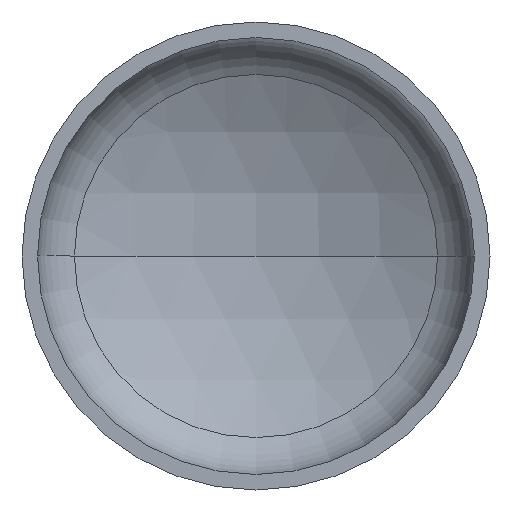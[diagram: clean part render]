
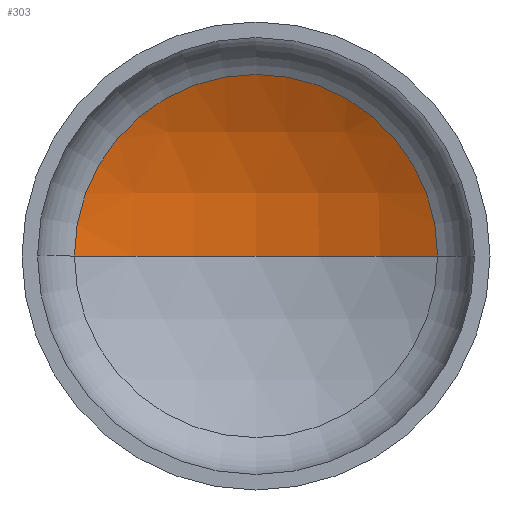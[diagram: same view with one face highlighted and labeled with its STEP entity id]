
A CAD part, front view. The second image highlights one B-rep face of the part: STEP entity #303.
In plain terms, the highlighted spherical face has radius 2560 mm.
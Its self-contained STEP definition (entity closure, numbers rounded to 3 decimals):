
#2 = AXIS2_PLACEMENT_3D ( 'NONE', #182, #376, #255 ) ;
#3 = AXIS2_PLACEMENT_3D ( 'NONE', #87, #109, #112 ) ;
#10 = AXIS2_PLACEMENT_3D ( 'NONE', #131, #308, #361 ) ;
#20 = AXIS2_PLACEMENT_3D ( 'NONE', #262, #139, #57 ) ;
#42 = VERTEX_POINT ( 'NONE', #270 ) ;
#55 = ORIENTED_EDGE ( 'NONE', *, *, #340, .F. ) ;
#57 = DIRECTION ( 'NONE',  ( -1., 0., 0. ) ) ;
#84 = CARTESIAN_POINT ( 'NONE',  ( -1241.662, 503.505, 0. ) ) ;
#87 = CARTESIAN_POINT ( 'NONE',  ( 0., -1735.217, 0. ) ) ;
#92 = CIRCLE ( 'NONE', #3, 2560. ) ;
#108 = CARTESIAN_POINT ( 'NONE',  ( 0., 824.783, 0. ) ) ;
#109 = DIRECTION ( 'NONE',  ( 0., 0., -1. ) ) ;
#111 = FACE_OUTER_BOUND ( 'NONE', #189, .T. ) ;
#112 = DIRECTION ( 'NONE',  ( -1., 0., 0. ) ) ;
#115 = ORIENTED_EDGE ( 'NONE', *, *, #359, .T. ) ;
#131 = CARTESIAN_POINT ( 'NONE',  ( 0., -1735.217, 0. ) ) ;
#139 = DIRECTION ( 'NONE',  ( 0., 0., -1. ) ) ;
#150 = CIRCLE ( 'NONE', #2, 1241.662 ) ;
#159 = CIRCLE ( 'NONE', #10, 2560. ) ;
#182 = CARTESIAN_POINT ( 'NONE',  ( 0., 503.505, 0. ) ) ;
#189 = EDGE_LOOP ( 'NONE', ( #55, #287, #115 ) ) ;
#255 = DIRECTION ( 'NONE',  ( 1., 0., 0. ) ) ;
#257 = VERTEX_POINT ( 'NONE', #84 ) ;
#262 = CARTESIAN_POINT ( 'NONE',  ( 0., -1735.217, 0. ) ) ;
#270 = CARTESIAN_POINT ( 'NONE',  ( 1241.662, 503.505, 0. ) ) ;
#287 = ORIENTED_EDGE ( 'NONE', *, *, #353, .T. ) ;
#303 = ADVANCED_FACE ( 'NONE', ( #111 ), #389, .F. ) ;
#308 = DIRECTION ( 'NONE',  ( 0., 0., 1. ) ) ;
#340 = EDGE_CURVE ( 'NONE', #372, #257, #159, .T. ) ;
#353 = EDGE_CURVE ( 'NONE', #372, #42, #92, .T. ) ;
#359 = EDGE_CURVE ( 'NONE', #42, #257, #150, .T. ) ;
#361 = DIRECTION ( 'NONE',  ( 1., 0., 0. ) ) ;
#372 = VERTEX_POINT ( 'NONE', #108 ) ;
#376 = DIRECTION ( 'NONE',  ( 0., -1., 0. ) ) ;
#389 = SPHERICAL_SURFACE ( 'NONE', #20, 2560. ) ;
